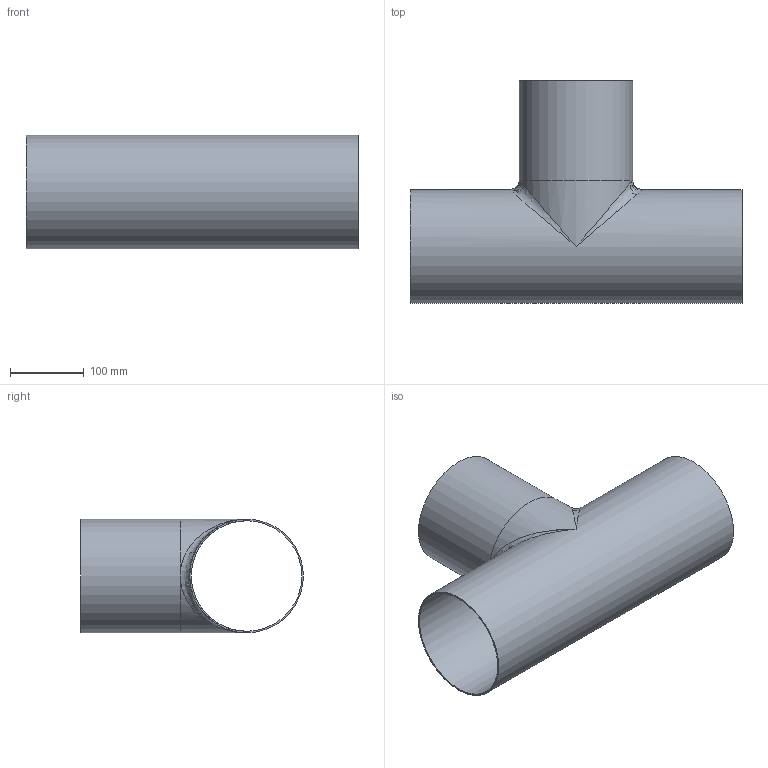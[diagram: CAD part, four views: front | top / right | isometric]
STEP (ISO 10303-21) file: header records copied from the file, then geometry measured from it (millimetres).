
FILE_DESCRIPTION(/* description */ ('DOCKWEILER AG - 19306 Germany - An der Autobahn 10/20'),/* implementation_level */ '2;1');
FILE_NAME(/* name */ '\\Dwgfs01\cad\CAD\Projekte\N0010_001_001_001\T_154x2_154x2_L450_l225_V00.ipt.stp',/* time_stamp */ '2014-07-04T12:13:05+02:00',/* author */ ('DOCKWEILER AG - 19306 Germany - An der Autobahn 10/20'),/* organization */ ('DOCKWEILER AG - 19306 Germany - An der Autobahn 10/20'),/* preprocessor_version */ 'ST-DEVELOPER v15.6',/* originating_system */ 'Autodesk Inventor 2015',/* authorisation */ '');
FILE_SCHEMA (('CONFIG_CONTROL_DESIGN'));
Length unit declared in the file: millimetre
Products named in the file (1): T_154x2_154x2_L450_l225_V00
Bounding box: 450 x 302 x 154 mm (x, y, z)
Volume: 552413.7 mm3; surface area: 555075.4 mm2
Topology: 2 solids, 2 shells, 16 faces, 41 edges, 20 vertices
Faces by surface type: cylinder 7, plane 5, bspline 4
Full cylindrical faces by diameter (mm): 150 x3, 154 x2
Entity records: 1785 total; most frequent: CARTESIAN_POINT 1449, DIRECTION 68, ORIENTED_EDGE 42, AXIS2_PLACEMENT_3D 34, EDGE_LOOP 28, EDGE_CURVE 21, STYLED_ITEM 18, FACE_OUTER_BOUND 16
